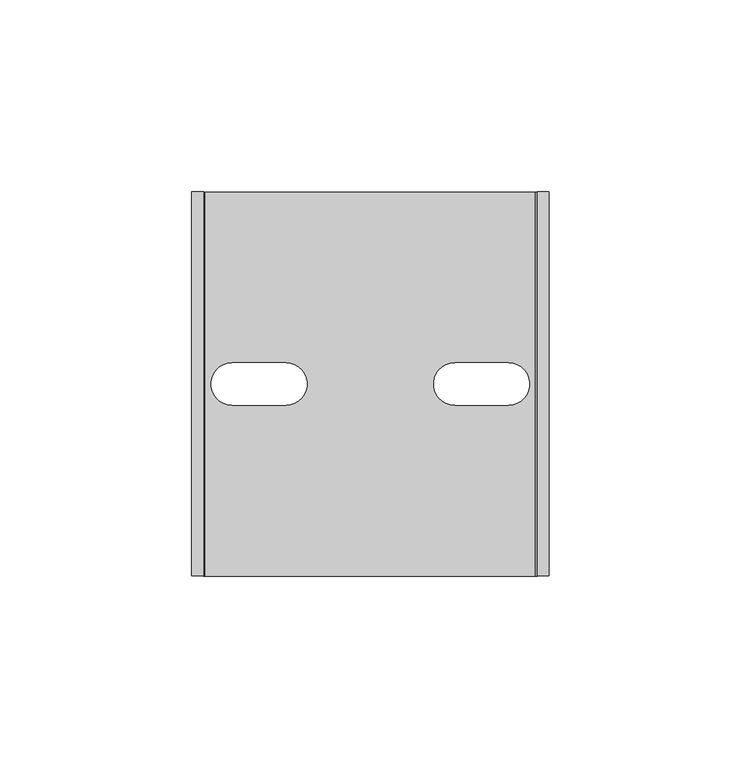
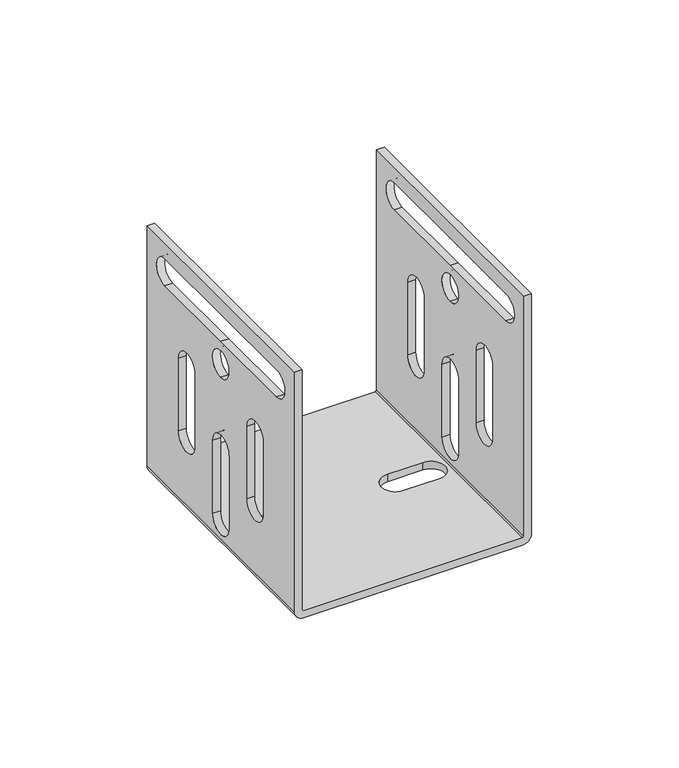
"""IFC4 building model written with IfcOpenShell, lengths in millimetres: proxy geometry, KSHGR_Support-Basorplast : Basorplast KSHGR."""

from ifc_helpers import new_model, si_unit, frame, origin, place, context, project, spatial, polyline, circle_curve, source, transform, mapped, element, save
from ifc_brep_helpers import plane_surface, cylinder_surface, revolved_surface, advanced_brep


def generic_models_37840590(model_context):
    return source(origin(), model_context, "Body", "AdvancedBrep", [
        advanced_brep(
        [(-43.0, -50.0, 0.0), (43.0, -50.0, 0.0), (46.5, -50.0, 3.5), (46.5, -50.0, 103.0), (43.5, -50.0, 103.0), (43.5, -50.0, 3.5), (43.0, -50.0, 3.0), (-43.0, -50.0, 3.0), (-43.5, -50.0, 3.5), (-43.5, -50.0, 103.0), (-46.5, -50.0, 103.0), (-46.5, -50.0, 3.5), (-43.0, 50.0, 0.0), (-46.5, 50.0, 3.5), (-46.5, 50.0, 103.0), (-43.5, 50.0, 103.0), (-43.5, 50.0, 3.5), (-43.0, 50.0, 3.0), (43.0, 50.0, 3.0), (43.5, 50.0, 3.5), (43.5, 50.0, 103.0), (46.5, 50.0, 103.0), (46.5, 50.0, 3.5), (43.0, 50.0, 0.0), (22.002215, 5.5, 0.0), (22.002215, -5.5, 0.0), (36.0, -5.5, 0.0), (36.0, 5.5, 0.0), (-22.002215, 5.5, 0.0), (-36.0, 5.5, 0.0), (-36.0, -5.5, 0.0), (-22.002215, -5.5, 0.0), (46.5, 38.0, 85.50026), (46.5, 0.0, 85.50026), (46.5, -38.0, 85.50026), (46.5, -38.0, 96.50026), (46.5, 0.0, 96.50026), (46.5, 38.0, 96.50026), (46.5, 0.0, 70.50026), (46.5, 0.0, 81.50026), (46.5, 28.7159758, 61.00026), (46.5, 28.7159758, 31.00026), (46.5, 17.7159758, 31.00026), (46.5, 17.7159758, 61.00026), (46.5, 5.4492194, 41.0930266), (46.5, 5.4492194, 11.00026), (46.5, -5.5513005, 11.00026), (46.5, -5.5513005, 41.00026), (46.5, -17.7159758, 31.00026), (46.5, -28.7159758, 31.00026), (46.5, -28.7159758, 61.00026), (46.5, -17.7159758, 61.00026), (43.5, 0.0, 85.50026), (43.5, 38.0, 85.50026), (43.5, 38.0, 96.50026), (43.5, 0.0, 96.50026), (43.5, -38.0, 96.50026), (43.5, -38.0, 85.50026), (43.5, 0.0, 81.50026), (43.5, 0.0, 70.50026), (43.5, 28.7159758, 31.00026), (43.5, 28.7159758, 61.00026), (43.5, 17.7159758, 61.00026), (43.5, 17.7159758, 31.00026), (43.5, 5.4492194, 11.00026), (43.5, 5.4492194, 41.0930266), (43.5, -5.5513005, 41.00026), (43.5, -5.5513005, 11.00026), (43.5, -28.7159758, 31.00026), (43.5, -17.7159758, 31.00026), (43.5, -17.7159758, 61.00026), (43.5, -28.7159758, 61.00026), (22.002215, -5.5, 3.0), (22.002215, 5.5, 3.0), (36.0, 5.5, 3.0), (36.0, -5.5, 3.0), (-36.0, 5.5, 3.0), (-22.002215, 5.5, 3.0), (-22.002215, -5.5, 3.0), (-36.0, -5.5, 3.0), (-43.5, 38.0, 85.50026), (-43.5, 0.0, 85.50026), (-43.5, -38.0, 85.50026), (-43.5, -38.0, 96.50026), (-43.5, 0.0, 96.50026), (-43.5, 38.0, 96.50026), (-43.5, 0.0, 70.50026), (-43.5, 0.0, 81.50026), (-43.5, 28.7159758, 61.00026), (-43.5, 28.7159758, 31.00026), (-43.5, 17.7159758, 31.00026), (-43.5, 17.7159758, 61.00026), (-43.5, 5.4492194, 41.0930266), (-43.5, 5.4492194, 11.00026), (-43.5, -5.5513005, 11.00026), (-43.5, -5.5513005, 41.00026), (-43.5, -17.7159758, 31.00026), (-43.5, -28.7159758, 31.00026), (-43.5, -28.7159758, 61.00026), (-43.5, -17.7159758, 61.00026), (-46.5, 0.0, 85.50026), (-46.5, 38.0, 85.50026), (-46.5, 38.0, 96.50026), (-46.5, 0.0, 96.50026), (-46.5, -38.0, 96.50026), (-46.5, -38.0, 85.50026), (-46.5, 0.0, 81.50026), (-46.5, 0.0, 70.50026), (-46.5, 28.7159758, 31.00026), (-46.5, 28.7159758, 61.00026), (-46.5, 17.7159758, 61.00026), (-46.5, 17.7159758, 31.00026), (-46.5, 5.4492194, 11.00026), (-46.5, 5.4492194, 41.0930266), (-46.5, -5.5513005, 41.00026), (-46.5, -5.5513005, 11.00026), (-46.5, -28.7159758, 31.00026), (-46.5, -17.7159758, 31.00026), (-46.5, -17.7159758, 61.00026), (-46.5, -28.7159758, 61.00026)],
        [
            (0, 1),
            (1, 2, circle_curve(frame((43.0, -50.0, 3.5), z_axis=(0.0, -1.0, 0.0), x_axis=(-1.0, 0.0, 0.0)), 3.5)),
            (2, 3),
            (3, 4),
            (4, 5),
            (5, 6, circle_curve(frame((43.0, -50.0, 3.5), z_axis=(0.0, 1.0, 0.0), x_axis=(-1.0, 0.0, 0.0)), 0.5)),
            (6, 7),
            (7, 8, circle_curve(frame((-43.0, -50.0, 3.5), z_axis=(0.0, 1.0, 0.0), x_axis=(-1.0, 0.0, 0.0)), 0.5)),
            (8, 9),
            (9, 10),
            (10, 11),
            (11, 0, circle_curve(frame((-43.0, -50.0, 3.5), z_axis=(0.0, -1.0, 0.0), x_axis=(-1.0, 0.0, 0.0)), 3.5)),
            (12, 13, circle_curve(frame((-43.0, 50.0, 3.5), z_axis=(0.0, 1.0, 0.0), x_axis=(-1.0, 0.0, 0.0)), 3.5)),
            (13, 14),
            (14, 15),
            (15, 16),
            (16, 17, circle_curve(frame((-43.0, 50.0, 3.5), z_axis=(0.0, -1.0, 0.0), x_axis=(-1.0, 0.0, 0.0)), 0.5)),
            (17, 18),
            (18, 19, circle_curve(frame((43.0, 50.0, 3.5), z_axis=(0.0, -1.0, 0.0), x_axis=(-1.0, 0.0, 0.0)), 0.5)),
            (19, 20),
            (20, 21),
            (21, 22),
            (22, 23, circle_curve(frame((43.0, 50.0, 3.5), z_axis=(0.0, 1.0, 0.0), x_axis=(-1.0, 0.0, 0.0)), 3.5)),
            (23, 12),
            (0, 12),
            (23, 1),
            (24, 25, circle_curve(frame((22.002215, 0.0, 0.0), z_axis=(0.0, 0.0, 1.0), x_axis=(1.0, 0.0, 0.0)), 5.5)),
            (25, 26),
            (26, 27, circle_curve(frame((36.0, 0.0, 0.0), z_axis=(0.0, 0.0, 1.0), x_axis=(1.0, 0.0, 0.0)), 5.5)),
            (27, 24),
            (28, 29),
            (29, 30, circle_curve(frame((-36.0, 0.0, 0.0), z_axis=(0.0, 0.0, 1.0), x_axis=(1.0, 0.0, 0.0)), 5.5)),
            (30, 31),
            (31, 28, circle_curve(frame((-22.002215, 0.0, 0.0), z_axis=(0.0, 0.0, 1.0), x_axis=(1.0, 0.0, 0.0)), 5.5)),
            (22, 2),
            (21, 3),
            (32, 33),
            (33, 34),
            (34, 35, circle_curve(frame((46.5, -38.0, 91.00026), z_axis=(-1.0, 0.0, 0.0), x_axis=(0.0, -1.0, 0.0)), 5.5)),
            (35, 36),
            (36, 37),
            (37, 32, circle_curve(frame((46.5, 38.0, 91.00026), z_axis=(-1.0, 0.0, 0.0), x_axis=(0.0, -1.0, 0.0)), 5.5)),
            (38, 39, circle_curve(frame((46.5, 0.0, 76.00026), z_axis=(-1.0, 0.0, 0.0), x_axis=(0.0, -1.0, 0.0)), 5.5)),
            (39, 38, circle_curve(frame((46.5, 0.0, 76.00026), z_axis=(-1.0, 0.0, 0.0), x_axis=(0.0, -1.0, 0.0)), 5.5)),
            (40, 41),
            (41, 42, circle_curve(frame((46.5, 23.2159758, 31.00026), z_axis=(-1.0, 0.0, 0.0), x_axis=(0.0, -1.0, 0.0)), 5.5)),
            (42, 43),
            (43, 40, circle_curve(frame((46.5, 23.2159758, 61.00026), z_axis=(-1.0, 0.0, 0.0), x_axis=(0.0, -1.0, 0.0)), 5.5)),
            (44, 45),
            (45, 46, circle_curve(frame((46.5, -0.0510406, 11.00026), z_axis=(-1.0, 0.0, 0.0), x_axis=(0.0, -1.0, 0.0)), 5.50026)),
            (46, 47),
            (47, 44, circle_curve(frame((46.5, -0.0514317, 41.0930266), z_axis=(-1.0, 0.0, 0.0), x_axis=(0.0, -1.0, 0.0)), 5.5006511)),
            (48, 49, circle_curve(frame((46.5, -23.2159758, 31.00026), z_axis=(-1.0, 0.0, 0.0), x_axis=(0.0, -1.0, 0.0)), 5.5)),
            (49, 50),
            (50, 51, circle_curve(frame((46.5, -23.2159758, 61.00026), z_axis=(-1.0, 0.0, 0.0), x_axis=(0.0, -1.0, 0.0)), 5.5)),
            (51, 48),
            (20, 4),
            (19, 5),
            (52, 53),
            (53, 54, circle_curve(frame((43.5, 38.0, 91.00026), z_axis=(1.0, 0.0, 0.0), x_axis=(0.0, -1.0, 0.0)), 5.5)),
            (54, 55),
            (55, 56),
            (56, 57, circle_curve(frame((43.5, -38.0, 91.00026), z_axis=(1.0, 0.0, 0.0), x_axis=(0.0, -1.0, 0.0)), 5.5)),
            (57, 52),
            (58, 59, circle_curve(frame((43.5, 0.0, 76.00026), z_axis=(1.0, 0.0, 0.0), x_axis=(0.0, -1.0, 0.0)), 5.5)),
            (59, 58, circle_curve(frame((43.5, 0.0, 76.00026), z_axis=(1.0, 0.0, 0.0), x_axis=(0.0, -1.0, 0.0)), 5.5)),
            (60, 61),
            (61, 62, circle_curve(frame((43.5, 23.2159758, 61.00026), z_axis=(1.0, 0.0, 0.0), x_axis=(0.0, -1.0, 0.0)), 5.5)),
            (62, 63),
            (63, 60, circle_curve(frame((43.5, 23.2159758, 31.00026), z_axis=(1.0, 0.0, 0.0), x_axis=(0.0, -1.0, 0.0)), 5.5)),
            (64, 65),
            (65, 66, circle_curve(frame((43.5, -0.0514317, 41.0930266), z_axis=(1.0, 0.0, 0.0), x_axis=(0.0, -1.0, 0.0)), 5.5006511)),
            (66, 67),
            (67, 64, circle_curve(frame((43.5, -0.0510406, 11.00026), z_axis=(1.0, 0.0, 0.0), x_axis=(0.0, -1.0, 0.0)), 5.50026)),
            (68, 69, circle_curve(frame((43.5, -23.2159758, 31.00026), z_axis=(1.0, 0.0, 0.0), x_axis=(0.0, -1.0, 0.0)), 5.5)),
            (69, 70),
            (70, 71, circle_curve(frame((43.5, -23.2159758, 61.00026), z_axis=(1.0, 0.0, 0.0), x_axis=(0.0, -1.0, 0.0)), 5.5)),
            (71, 68),
            (18, 6),
            (17, 7),
            (72, 73, circle_curve(frame((22.002215, 0.0, 3.0), z_axis=(0.0, 0.0, -1.0), x_axis=(1.0, 0.0, 0.0)), 5.5)),
            (73, 74),
            (74, 75, circle_curve(frame((36.0, 0.0, 3.0), z_axis=(0.0, 0.0, -1.0), x_axis=(1.0, 0.0, 0.0)), 5.5)),
            (75, 72),
            (76, 77),
            (77, 78, circle_curve(frame((-22.002215, 0.0, 3.0), z_axis=(0.0, 0.0, -1.0), x_axis=(1.0, 0.0, 0.0)), 5.5)),
            (78, 79),
            (79, 76, circle_curve(frame((-36.0, 0.0, 3.0), z_axis=(0.0, 0.0, -1.0), x_axis=(1.0, 0.0, 0.0)), 5.5)),
            (16, 8),
            (15, 9),
            (80, 81),
            (81, 82),
            (82, 83, circle_curve(frame((-43.5, -38.0, 91.00026), z_axis=(-1.0, 0.0, 0.0), x_axis=(0.0, -1.0, 0.0)), 5.5)),
            (83, 84),
            (84, 85),
            (85, 80, circle_curve(frame((-43.5, 38.0, 91.00026), z_axis=(-1.0, 0.0, 0.0), x_axis=(0.0, -1.0, 0.0)), 5.5)),
            (86, 87, circle_curve(frame((-43.5, 0.0, 76.00026), z_axis=(-1.0, 0.0, 0.0), x_axis=(0.0, -1.0, 0.0)), 5.5)),
            (87, 86, circle_curve(frame((-43.5, 0.0, 76.00026), z_axis=(-1.0, 0.0, 0.0), x_axis=(0.0, -1.0, 0.0)), 5.5)),
            (88, 89),
            (89, 90, circle_curve(frame((-43.5, 23.2159758, 31.00026), z_axis=(-1.0, 0.0, 0.0), x_axis=(0.0, -1.0, 0.0)), 5.5)),
            (90, 91),
            (91, 88, circle_curve(frame((-43.5, 23.2159758, 61.00026), z_axis=(-1.0, 0.0, 0.0), x_axis=(0.0, -1.0, 0.0)), 5.5)),
            (92, 93),
            (93, 94, circle_curve(frame((-43.5, -0.0510406, 11.00026), z_axis=(-1.0, 0.0, 0.0), x_axis=(0.0, -1.0, 0.0)), 5.50026)),
            (94, 95),
            (95, 92, circle_curve(frame((-43.5, -0.0514317, 41.0930266), z_axis=(-1.0, 0.0, 0.0), x_axis=(0.0, -1.0, 0.0)), 5.5006511)),
            (96, 97, circle_curve(frame((-43.5, -23.2159758, 31.00026), z_axis=(-1.0, 0.0, 0.0), x_axis=(0.0, -1.0, 0.0)), 5.5)),
            (97, 98),
            (98, 99, circle_curve(frame((-43.5, -23.2159758, 61.00026), z_axis=(-1.0, 0.0, 0.0), x_axis=(0.0, -1.0, 0.0)), 5.5)),
            (99, 96),
            (14, 10),
            (13, 11),
            (100, 101),
            (101, 102, circle_curve(frame((-46.5, 38.0, 91.00026), z_axis=(1.0, 0.0, 0.0), x_axis=(0.0, -1.0, 0.0)), 5.5)),
            (102, 103),
            (103, 104),
            (104, 105, circle_curve(frame((-46.5, -38.0, 91.00026), z_axis=(1.0, 0.0, 0.0), x_axis=(0.0, -1.0, 0.0)), 5.5)),
            (105, 100),
            (106, 107, circle_curve(frame((-46.5, 0.0, 76.00026), z_axis=(1.0, 0.0, 0.0), x_axis=(0.0, -1.0, 0.0)), 5.5)),
            (107, 106, circle_curve(frame((-46.5, 0.0, 76.00026), z_axis=(1.0, 0.0, 0.0), x_axis=(0.0, -1.0, 0.0)), 5.5)),
            (108, 109),
            (109, 110, circle_curve(frame((-46.5, 23.2159758, 61.00026), z_axis=(1.0, 0.0, 0.0), x_axis=(0.0, -1.0, 0.0)), 5.5)),
            (110, 111),
            (111, 108, circle_curve(frame((-46.5, 23.2159758, 31.00026), z_axis=(1.0, 0.0, 0.0), x_axis=(0.0, -1.0, 0.0)), 5.5)),
            (112, 113),
            (113, 114, circle_curve(frame((-46.5, -0.0514317, 41.0930266), z_axis=(1.0, 0.0, 0.0), x_axis=(0.0, -1.0, 0.0)), 5.5006511)),
            (114, 115),
            (115, 112, circle_curve(frame((-46.5, -0.0510406, 11.00026), z_axis=(1.0, 0.0, 0.0), x_axis=(0.0, -1.0, 0.0)), 5.50026)),
            (116, 117, circle_curve(frame((-46.5, -23.2159758, 31.00026), z_axis=(1.0, 0.0, 0.0), x_axis=(0.0, -1.0, 0.0)), 5.5)),
            (117, 118),
            (118, 119, circle_curve(frame((-46.5, -23.2159758, 61.00026), z_axis=(1.0, 0.0, 0.0), x_axis=(0.0, -1.0, 0.0)), 5.5)),
            (119, 116),
            (52, 33),
            (32, 53),
            (100, 81),
            (80, 101),
            (37, 54),
            (85, 102),
            (36, 55),
            (84, 103),
            (35, 56),
            (83, 104),
            (34, 57),
            (82, 105),
            (58, 39),
            (38, 59),
            (106, 87),
            (86, 107),
            (60, 41),
            (40, 61),
            (108, 89),
            (88, 109),
            (43, 62),
            (91, 110),
            (42, 63),
            (90, 111),
            (64, 45),
            (44, 65),
            (112, 93),
            (92, 113),
            (47, 66),
            (95, 114),
            (46, 67),
            (94, 115),
            (68, 49),
            (48, 69),
            (116, 97),
            (96, 117),
            (51, 70),
            (99, 118),
            (50, 71),
            (98, 119),
            (24, 73),
            (72, 25),
            (75, 26),
            (74, 27),
            (28, 77),
            (76, 29),
            (79, 30),
            (78, 31),
        ],
        [
            plane_surface(frame((46.5, -50.0, 0.0), z_axis=(0.0, -1.0, 0.0), x_axis=(1.0, 0.0, 0.0))),
            plane_surface(frame((46.5, 50.0, 0.0), z_axis=(0.0, 1.0, 0.0), x_axis=(-1.0, 0.0, 0.0))),
            plane_surface(frame((-43.0, -50.0, 0.0), z_axis=(0.0, 0.0, -1.0), x_axis=(0.0, 1.0, 0.0))),
            cylinder_surface(frame((43.0, 50.0, 3.5), z_axis=(0.0, -1.0, 0.0), x_axis=(-1.0, 0.0, 0.0)), 3.5),
            plane_surface(frame((46.5, -50.0, 3.5), z_axis=(1.0, 0.0, 0.0), x_axis=(0.0, 1.0, 0.0))),
            plane_surface(frame((46.5, -50.0, 103.0), z_axis=(0.0, 0.0, 1.0), x_axis=(0.0, 1.0, 0.0))),
            plane_surface(frame((43.5, -50.0, 103.0), z_axis=(-1.0, 0.0, 0.0), x_axis=(0.0, 1.0, 0.0))),
            revolved_surface(polyline([(42.5, 50.0, 3.5), (42.5, -50.0, 3.5)]), (43.0, 50.0, 3.5), (0.0, 1.0, 0.0)),
            plane_surface(frame((43.0, -50.0, 3.0), z_axis=(0.0, 0.0, 1.0), x_axis=(0.0, 1.0, 0.0))),
            revolved_surface(polyline([(-43.5, 50.0, 3.5), (-43.5, -50.0, 3.5)]), (-43.0, 50.0, 3.5), (0.0, 1.0, 0.0)),
            plane_surface(frame((-43.5, -50.0, 3.5), z_axis=(1.0, 0.0, 0.0), x_axis=(0.0, 1.0, 0.0))),
            plane_surface(frame((-43.5, -50.0, 103.0), z_axis=(0.0, 0.0, 1.0), x_axis=(0.0, 1.0, 0.0))),
            plane_surface(frame((-46.5, -50.0, 103.0), z_axis=(-1.0, 0.0, 0.0), x_axis=(0.0, 1.0, 0.0))),
            cylinder_surface(frame((-43.0, 50.0, 3.5), z_axis=(0.0, -1.0, 0.0), x_axis=(-1.0, 0.0, 0.0)), 3.5),
            plane_surface(frame((50.0, 0.0, 85.50026), z_axis=(0.0, 0.0, 1.0), x_axis=(-1.0, 0.0, 0.0))),
            revolved_surface(polyline([(46.5, 32.5, 91.00026), (43.5, 32.5, 91.00026)]), (-50.0, 38.0, 91.00026), (1.0, 0.0, 0.0)),
            revolved_surface(polyline([(-43.5, 32.5, 91.00026), (-46.5, 32.5, 91.00026)]), (-50.0, 38.0, 91.00026), (1.0, 0.0, 0.0)),
            plane_surface(frame((50.0, 38.0, 96.50026), z_axis=(0.0, 0.0, -1.0), x_axis=(-1.0, 0.0, 0.0))),
            plane_surface(frame((50.0, 0.0, 96.50026), z_axis=(0.0, 0.0, -1.0), x_axis=(-1.0, 0.0, 0.0))),
            revolved_surface(polyline([(46.5, -43.5, 91.00026), (43.5, -43.5, 91.00026)]), (-50.0, -38.0, 91.00026), (1.0, 0.0, 0.0)),
            revolved_surface(polyline([(-43.5, -43.5, 91.00026), (-46.5, -43.5, 91.00026)]), (-50.0, -38.0, 91.00026), (1.0, 0.0, 0.0)),
            plane_surface(frame((50.0, -38.0, 85.50026), z_axis=(0.0, 0.0, 1.0), x_axis=(-1.0, 0.0, 0.0))),
            revolved_surface(polyline([(46.5, -5.5, 76.00026), (43.5, -5.5, 76.00026)]), (0.0, 0.0, 76.00026), (1.0, 0.0, 0.0)),
            revolved_surface(polyline([(-43.5, -5.5, 76.00026), (-46.5, -5.5, 76.00026)]), (0.0, 0.0, 76.00026), (1.0, 0.0, 0.0)),
            plane_surface(frame((50.0, 28.7159758, 31.00026), z_axis=(0.0, -1.0, 0.0), x_axis=(-1.0, 0.0, 0.0))),
            revolved_surface(polyline([(46.5, 17.7159758, 61.00026), (43.5, 17.7159758, 61.00026)]), (0.0, 23.2159758, 61.00026), (1.0, 0.0, 0.0)),
            revolved_surface(polyline([(-43.5, 17.7159758, 61.00026), (-46.5, 17.7159758, 61.00026)]), (0.0, 23.2159758, 61.00026), (1.0, 0.0, 0.0)),
            plane_surface(frame((50.0, 17.7159758, 61.00026), z_axis=(0.0, 1.0, 0.0), x_axis=(-1.0, 0.0, 0.0))),
            revolved_surface(polyline([(46.5, 17.7159758, 31.00026), (43.5, 17.7159758, 31.00026)]), (0.0, 23.2159758, 31.00026), (1.0, 0.0, 0.0)),
            revolved_surface(polyline([(-43.5, 17.7159758, 31.00026), (-46.5, 17.7159758, 31.00026)]), (0.0, 23.2159758, 31.00026), (1.0, 0.0, 0.0)),
            plane_surface(frame((50.0, 5.4492194, 11.00026), z_axis=(0.0, -1.0, 0.0), x_axis=(-1.0, 0.0, 0.0))),
            revolved_surface(polyline([(46.5, -5.5520828, 41.0930266), (43.5, -5.5520828, 41.0930266)]), (0.0, -0.0514317, 41.0930266), (1.0, 0.0, 0.0)),
            revolved_surface(polyline([(-43.5, -5.5520828, 41.0930266), (-46.5, -5.5520828, 41.0930266)]), (0.0, -0.0514317, 41.0930266), (1.0, 0.0, 0.0)),
            plane_surface(frame((50.0, -5.5513005, 41.00026), z_axis=(0.0, 1.0, 0.0), x_axis=(-1.0, 0.0, 0.0))),
            revolved_surface(polyline([(46.5, -5.5513006, 11.00026), (43.5, -5.5513006, 11.00026)]), (0.0, -0.0510406, 11.00026), (1.0, 0.0, 0.0)),
            revolved_surface(polyline([(-43.5, -5.5513006, 11.00026), (-46.5, -5.5513006, 11.00026)]), (0.0, -0.0510406, 11.00026), (1.0, 0.0, 0.0)),
            revolved_surface(polyline([(46.5, -28.7159758, 31.00026), (43.5, -28.7159758, 31.00026)]), (0.0, -23.2159758, 31.00026), (1.0, 0.0, 0.0)),
            revolved_surface(polyline([(-43.5, -28.7159758, 31.00026), (-46.5, -28.7159758, 31.00026)]), (0.0, -23.2159758, 31.00026), (1.0, 0.0, 0.0)),
            plane_surface(frame((50.0, -17.7159758, 31.00026), z_axis=(0.0, -1.0, 0.0), x_axis=(-1.0, 0.0, 0.0))),
            revolved_surface(polyline([(46.5, -28.7159758, 61.00026), (43.5, -28.7159758, 61.00026)]), (0.0, -23.2159758, 61.00026), (1.0, 0.0, 0.0)),
            revolved_surface(polyline([(-43.5, -28.7159758, 61.00026), (-46.5, -28.7159758, 61.00026)]), (0.0, -23.2159758, 61.00026), (1.0, 0.0, 0.0)),
            plane_surface(frame((50.0, -28.7159758, 61.00026), z_axis=(0.0, 1.0, 0.0), x_axis=(-1.0, 0.0, 0.0))),
            revolved_surface(polyline([(27.502215, 0.0, 3.0), (27.502215, 0.0, 0.0)]), (22.002215, 0.0, 0.0), (0.0, 0.0, 1.0)),
            plane_surface(frame((22.002215, -5.5, 103.0), z_axis=(0.0, 1.0, 0.0), x_axis=(0.0, 0.0, -1.0))),
            revolved_surface(polyline([(41.5, 0.0, 3.0), (41.5, 0.0, 0.0)]), (36.0, 0.0, 0.0), (0.0, 0.0, 1.0)),
            plane_surface(frame((36.0, 5.5, 103.0), z_axis=(0.0, -1.0, 0.0), x_axis=(0.0, 0.0, -1.0))),
            plane_surface(frame((-22.002215, 5.5, 103.0), z_axis=(0.0, -1.0, 0.0), x_axis=(0.0, 0.0, -1.0))),
            revolved_surface(polyline([(-30.5, 0.0, 3.0), (-30.5, 0.0, 0.0)]), (-36.0, 0.0, 0.0), (0.0, 0.0, 1.0)),
            plane_surface(frame((-36.0, -5.5, 103.0), z_axis=(0.0, 1.0, 0.0), x_axis=(0.0, 0.0, -1.0))),
            revolved_surface(polyline([(-16.502215, 0.0, 3.0), (-16.502215, 0.0, 0.0)]), (-22.002215, 0.0, 0.0), (0.0, 0.0, 1.0)),
        ],
        [
            (0, [[1, 2, 3, 4, 5, 6, 7, 8, 9, 10, 11, 12]]),
            (1, [[13, 14, 15, 16, 17, 18, 19, 20, 21, 22, 23, 24]]),
            (2, [[-1, 25, -24, 26], [27, 28, 29, 30], [31, 32, 33, 34]]),
            (3, [[-2, -26, -23, 35]]),
            (4, [[-3, -35, -22, 36], [37, 38, 39, 40, 41, 42], [43, 44], [45, 46, 47, 48], [49, 50, 51, 52], [53, 54, 55, 56]]),
            (5, [[-4, -36, -21, 57]]),
            (6, [[-5, -57, -20, 58], [59, 60, 61, 62, 63, 64], [65, 66], [67, 68, 69, 70], [71, 72, 73, 74], [75, 76, 77, 78]]),
            (7, [[-6, -58, -19, 79]]),
            (8, [[-7, -79, -18, 80], [81, 82, 83, 84], [85, 86, 87, 88]]),
            (9, [[-8, -80, -17, 89]]),
            (10, [[-9, -89, -16, 90], [91, 92, 93, 94, 95, 96], [97, 98], [99, 100, 101, 102], [103, 104, 105, 106], [107, 108, 109, 110]]),
            (11, [[-10, -90, -15, 111]]),
            (12, [[-11, -111, -14, 112], [113, 114, 115, 116, 117, 118], [119, 120], [121, 122, 123, 124], [125, 126, 127, 128], [129, 130, 131, 132]]),
            (13, [[-12, -112, -13, -25]]),
            (14, [[133, -37, 134, -59]]),
            (14, [[135, -91, 136, -113]]),
            (15, [[-134, -42, 137, -60]]),
            (16, [[-136, -96, 138, -114]]),
            (17, [[-137, -41, 139, -61]]),
            (17, [[-138, -95, 140, -115]]),
            (18, [[-139, -40, 141, -62]]),
            (18, [[-140, -94, 142, -116]]),
            (19, [[-141, -39, 143, -63]]),
            (20, [[-142, -93, 144, -117]]),
            (21, [[-133, -64, -143, -38]]),
            (21, [[-135, -118, -144, -92]]),
            (22, [[145, -43, 146, -65]]),
            (23, [[147, -97, 148, -119]]),
            (22, [[-145, -66, -146, -44]]),
            (23, [[-147, -120, -148, -98]]),
            (24, [[149, -45, 150, -67]]),
            (24, [[151, -99, 152, -121]]),
            (25, [[-150, -48, 153, -68]]),
            (26, [[-152, -102, 154, -122]]),
            (27, [[-153, -47, 155, -69]]),
            (27, [[-154, -101, 156, -123]]),
            (28, [[-149, -70, -155, -46]]),
            (29, [[-151, -124, -156, -100]]),
            (30, [[157, -49, 158, -71]]),
            (30, [[159, -103, 160, -125]]),
            (31, [[-158, -52, 161, -72]]),
            (32, [[-160, -106, 162, -126]]),
            (33, [[-161, -51, 163, -73]]),
            (33, [[-162, -105, 164, -127]]),
            (34, [[-157, -74, -163, -50]]),
            (35, [[-159, -128, -164, -104]]),
            (36, [[165, -53, 166, -75]]),
            (37, [[167, -107, 168, -129]]),
            (38, [[-166, -56, 169, -76]]),
            (38, [[-168, -110, 170, -130]]),
            (39, [[-169, -55, 171, -77]]),
            (40, [[-170, -109, 172, -131]]),
            (41, [[-165, -78, -171, -54]]),
            (41, [[-167, -132, -172, -108]]),
            (42, [[173, -81, 174, -27]]),
            (43, [[-174, -84, 175, -28]]),
            (44, [[-175, -83, 176, -29]]),
            (45, [[-173, -30, -176, -82]]),
            (46, [[177, -85, 178, -31]]),
            (47, [[-178, -88, 179, -32]]),
            (48, [[-179, -87, 180, -33]]),
            (49, [[-177, -34, -180, -86]]),
        ],
    ),
    ])


if __name__ == "__main__":
    model = new_model("IFC4")
    model_context = context("Model", 3, world=origin())
    ifc_project = project(units=[si_unit("LENGTHUNIT", "METRE", prefix="MILLI")], contexts=[model_context])
    site = spatial("IfcSite", under=ifc_project)
    building = spatial("IfcBuilding", under=site)
    placement = place(None, origin())
    generic_models_shape = generic_models_37840590(model_context)
    element("IfcBuildingElementProxy", 1, Name="KSHGR_Support-Basorplast : Basorplast KSHGR", ObjectType="KSHGR_Support-Basorplast : Basorplast KSHGR", at=placement, inside=building, context=model_context, shape_type="MappedRepresentation", body=[
        mapped(generic_models_shape, transform((0.0, 0.0, 0.0), x_axis=(1.0, 0.0, 0.0), y_axis=(0.0, 1.0, 0.0), z_axis=(0.0, 0.0, 1.0))),
    ])
    save(model, "model.ifc")
